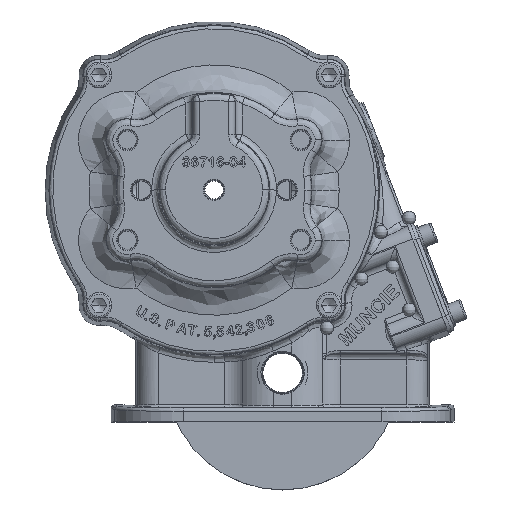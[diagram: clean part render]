
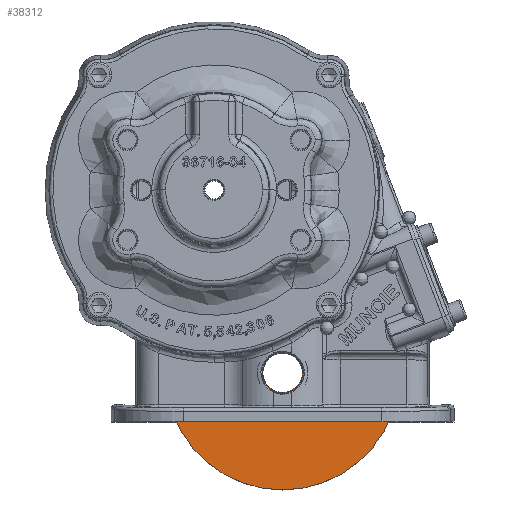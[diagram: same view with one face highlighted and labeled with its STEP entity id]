
A CAD part, top view. The second image highlights one B-rep face of the part: STEP entity #38312.
In plain terms, the highlighted planar face has unit normal (0, 0, 1).
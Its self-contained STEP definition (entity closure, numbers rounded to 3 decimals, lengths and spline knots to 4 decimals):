
#10794 = ORIENTED_EDGE ( 'NONE', *, *, #144974, .T. ) ;
#10795 = ORIENTED_EDGE ( 'NONE', *, *, #144934, .T. ) ;
#10797 = ORIENTED_EDGE ( 'NONE', *, *, #144972, .F. ) ;
#10799 = ORIENTED_EDGE ( 'NONE', *, *, #144963, .F. ) ;
#38312 = ADVANCED_FACE ( 'NONE', ( #157566, #157569 ), #157571, .F. ) ;
#66744 = CARTESIAN_POINT ( 'NONE',  ( 0.2973, -1.824, 1.7223 ) ) ;
#66780 = CARTESIAN_POINT ( 'NONE',  ( 0.2973, 0.6705, 1.7223 ) ) ;
#66802 = CARTESIAN_POINT ( 'NONE',  ( 0.2973, -3.5995, 1.7223 ) ) ;
#95969 = CARTESIAN_POINT ( 'NONE',  ( 0.2973, -1.105, 1.7223 ) ) ;
#100903 = EDGE_LOOP ( 'NONE', ( #10794, #10795 ) ) ;
#100942 = EDGE_LOOP ( 'NONE', ( #10797, #10799 ) ) ;
#105892 = VERTEX_POINT ( 'NONE', #66744 ) ;
#105930 = VERTEX_POINT ( 'NONE', #66780 ) ;
#105953 = VERTEX_POINT ( 'NONE', #66802 ) ;
#106605 = VERTEX_POINT ( 'NONE', #95969 ) ;
#111749 = CIRCLE ( 'NONE', #111760, 2.135 ) ;
#111760 = AXIS2_PLACEMENT_3D ( 'NONE', #125097, #125101, #125105 ) ;
#111769 = CIRCLE ( 'NONE', #111775, 2.135 ) ;
#111773 = CIRCLE ( 'NONE', #111779, 0.3595 ) ;
#111775 = AXIS2_PLACEMENT_3D ( 'NONE', #125161, #125165, #125169 ) ;
#111779 = AXIS2_PLACEMENT_3D ( 'NONE', #125179, #125183, #125187 ) ;
#117200 = CIRCLE ( 'NONE', #117217, 0.3595 ) ;
#117217 = AXIS2_PLACEMENT_3D ( 'NONE', #124881, #124885, #124889 ) ;
#124881 = CARTESIAN_POINT ( 'NONE',  ( 0.2973, -1.4645, 1.7223 ) ) ;
#124885 = DIRECTION ( 'NONE',  ( 0., 0., -1. ) ) ;
#124889 = DIRECTION ( 'NONE',  ( 0., 1., 0. ) ) ;
#125097 = CARTESIAN_POINT ( 'NONE',  ( 0.2973, -1.4645, 1.7223 ) ) ;
#125101 = DIRECTION ( 'NONE',  ( 0., 0., -1. ) ) ;
#125105 = DIRECTION ( 'NONE',  ( 0., 1., 0. ) ) ;
#125161 = CARTESIAN_POINT ( 'NONE',  ( 0.2973, -1.4645, 1.7223 ) ) ;
#125165 = DIRECTION ( 'NONE',  ( 0., 0., -1. ) ) ;
#125169 = DIRECTION ( 'NONE',  ( 0., 1., 0. ) ) ;
#125179 = CARTESIAN_POINT ( 'NONE',  ( 0.2973, -1.4645, 1.7223 ) ) ;
#125183 = DIRECTION ( 'NONE',  ( 0., 0., -1. ) ) ;
#125187 = DIRECTION ( 'NONE',  ( 0., 1., 0. ) ) ;
#141788 = AXIS2_PLACEMENT_3D ( 'NONE', #157540, #157575, #157577 ) ;
#144934 = EDGE_CURVE ( 'NONE', #105892, #106605, #117200, .T. ) ;
#144963 = EDGE_CURVE ( 'NONE', #105930, #105953, #111749, .T. ) ;
#144972 = EDGE_CURVE ( 'NONE', #105953, #105930, #111769, .T. ) ;
#144974 = EDGE_CURVE ( 'NONE', #106605, #105892, #111773, .T. ) ;
#157540 = CARTESIAN_POINT ( 'NONE',  ( 0.2973, -1.4645, 1.7223 ) ) ;
#157566 = FACE_BOUND ( 'NONE', #100903, .T. ) ;
#157569 = FACE_OUTER_BOUND ( 'NONE', #100942, .T. ) ;
#157571 = PLANE ( 'NONE',  #141788 ) ;
#157575 = DIRECTION ( 'NONE',  ( 0., 0., -1. ) ) ;
#157577 = DIRECTION ( 'NONE',  ( 0., 1., 0. ) ) ;
